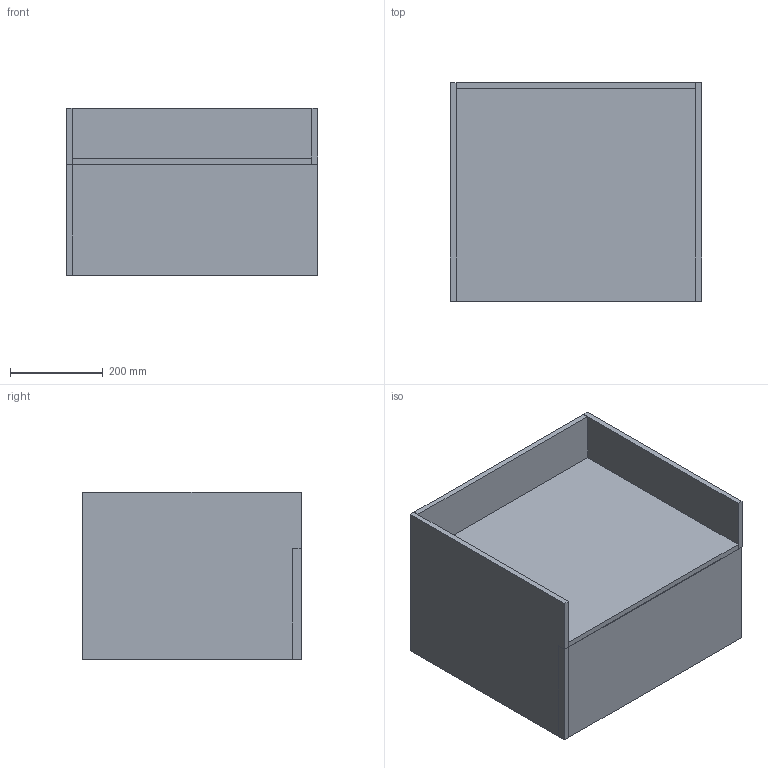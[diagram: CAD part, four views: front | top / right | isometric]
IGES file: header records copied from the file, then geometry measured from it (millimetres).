
Start section: Data from Parasolid IGES Translator 19.0.9, Copyright(c) 2006 Siemens PL M Software. All Rights Reserved.
Global section: file name: noorth-SI-H 36 D 47 W 55,2_8907.igs; native system: By Siemens PLM Incorporated; preprocessor: XPlus GENERIC/IGES 19.0.9; author: Noname; organization: Noname; date: 20200601.094412; units: metre
Bounding box: 540.01 x 470 x 360 mm (x, y, z)
Volume: 18067169 mm3; surface area: 2836395.3 mm2
Topology: 9 solids, 9 shells, 54 faces, 108 edges, 72 vertices
Faces by surface type: plane 54
